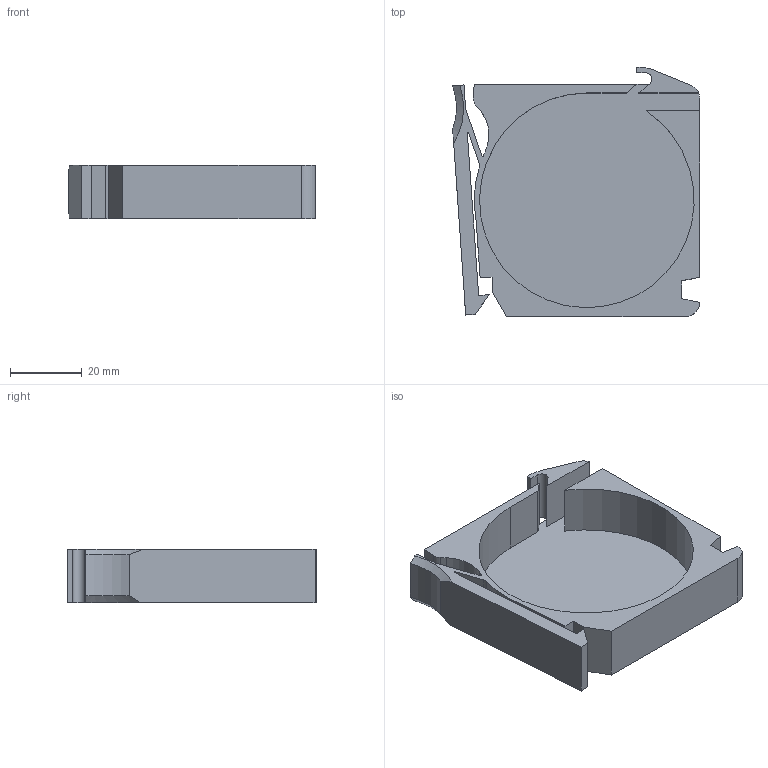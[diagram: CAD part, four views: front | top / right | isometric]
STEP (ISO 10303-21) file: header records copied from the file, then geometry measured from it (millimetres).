
FILE_DESCRIPTION(/* description */ (''),/* implementation_level */ '2;1');
FILE_NAME(/* name */ '/Users/robin/Downloads/Compliant SMD Magazine.step',/* time_stamp */ '2019-11-07T09:30:13+01:00',/* author */ (''),/* organization */ (''),/* preprocessor_version */ 'ST-DEVELOPER v18',/* originating_system */ 'Autodesk Translation Framework v8.9.1.1155',/* authorisation */ '');
FILE_SCHEMA (('AUTOMOTIVE_DESIGN { 1 0 10303 214 3 1 1 }'));
Length unit declared in the file: millimetre
Products named in the file (2): Compliant Strip Holder; Compliat SMD Magazine
Assembly tree (1 placements, depth 2):
  Compliant Strip Holder
    Compliat SMD Magazine
Bounding box: 69.08 x 69.68 x 15 mm (x, y, z)
Volume: 21967.4 mm3; surface area: 17735.8 mm2
Topology: 1 solids, 1 shells, 50 faces, 143 edges, 95 vertices
Faces by surface type: plane 34, cylinder 14, cone 2
Entity records: 1693 total; most frequent: CARTESIAN_POINT 299, ORIENTED_EDGE 286, DIRECTION 276, EDGE_CURVE 143, LINE 108, VECTOR 108, VERTEX_POINT 95, AXIS2_PLACEMENT_3D 84
